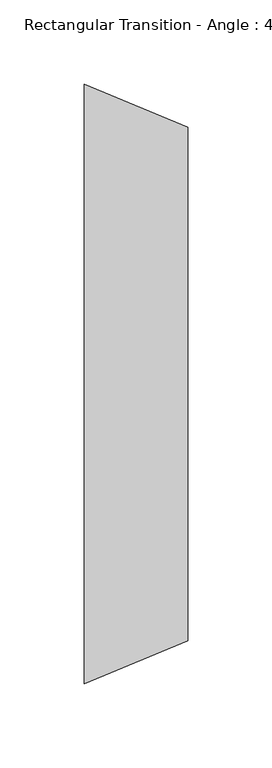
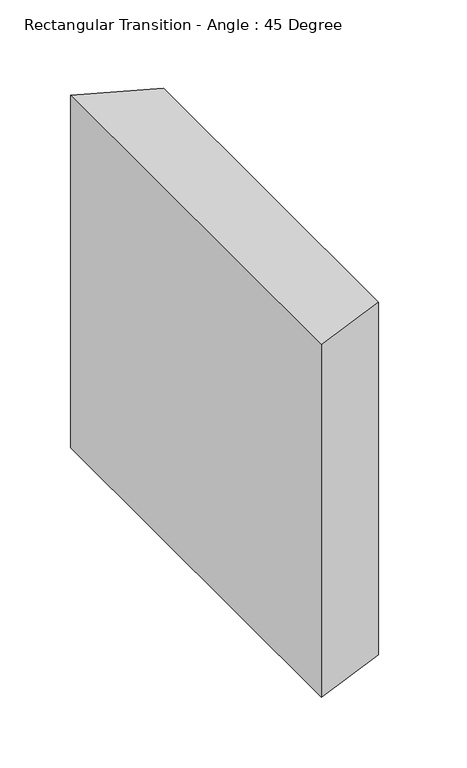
"""IFC4 building model written with IfcOpenShell, lengths in millimetres: duct fitting geometry, Rectangular Transition - Angle : 45 Degree."""

from ifc_helpers import new_model, si_unit, frame, origin, place, context, project, spatial, polyline, outline, extrude, source, transform, mapped, element, save


def rectangular_transition_angle_45_degree_65bf7615(model_context):
    return source(origin(), model_context, "Body", "SweptSolid", [
        extrude(outline(polyline([(0.0, -177.8), (0.0, 177.8), (61.3210245, 152.4), (61.3210245, -152.4), (0.0, -177.8)])), frame((0.0, 0.0, -152.4), z_axis=(0.0, 0.0, 1.0), x_axis=(1.0, 0.0, 0.0)), (0.0, 0.0, 1.0), 304.8),
    ])


if __name__ == "__main__":
    model = new_model("IFC4")
    model_context = context("Model", 3, world=origin())
    ifc_project = project(units=[si_unit("LENGTHUNIT", "METRE", prefix="MILLI")], contexts=[model_context])
    site = spatial("IfcSite", under=ifc_project)
    building = spatial("IfcBuilding", under=site)
    placement = place(None, origin())
    rectangular_transition_angle_45_degree_shape = rectangular_transition_angle_45_degree_65bf7615(model_context)
    element("IfcDuctFitting", 1, ObjectType="Rectangular Transition - Angle : 45 Degree", at=placement, inside=building, context=model_context, shape_type="MappedRepresentation", body=[
        mapped(rectangular_transition_angle_45_degree_shape, transform((0.0, 0.0, 0.0), x_axis=(1.0, 0.0, 0.0), y_axis=(0.0, 1.0, 0.0), z_axis=(0.0, 0.0, 1.0))),
    ])
    save(model, "model.ifc")
